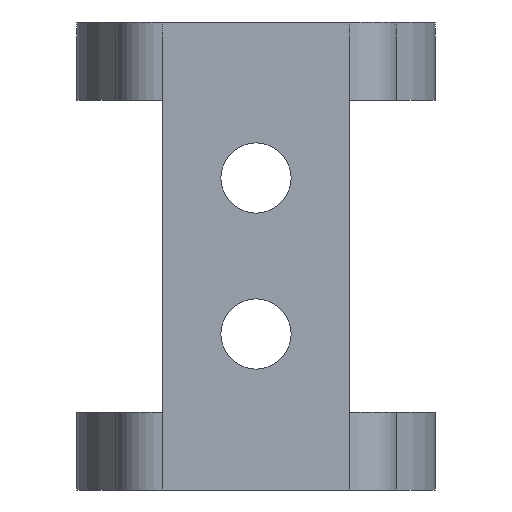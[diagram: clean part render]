
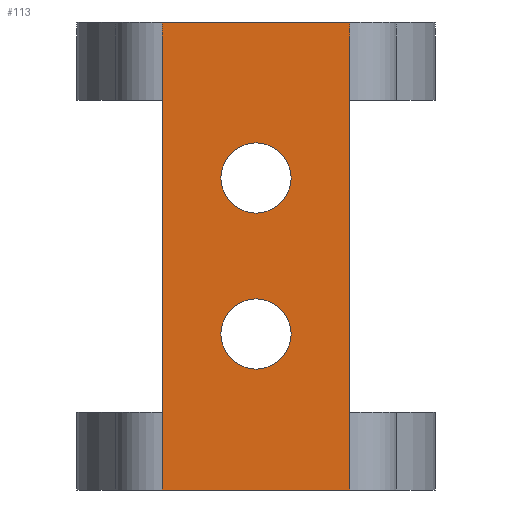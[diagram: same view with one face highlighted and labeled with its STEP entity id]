
A CAD part, front view. The second image highlights one B-rep face of the part: STEP entity #113.
In plain terms, the highlighted planar face has unit normal (0, -1, 0).
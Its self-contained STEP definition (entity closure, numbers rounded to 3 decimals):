
#113=ADVANCED_FACE('',(#204,#205,#206),#207,.F.);
#204=FACE_BOUND('',#306,.T.);
#205=FACE_BOUND('',#307,.T.);
#206=FACE_OUTER_BOUND('',#308,.T.);
#207=PLANE('',#309);
#306=EDGE_LOOP('',(#644));
#307=EDGE_LOOP('',(#645));
#308=EDGE_LOOP('',(#646,#647,#648,#649,#650,#651,#652,#653));
#309=AXIS2_PLACEMENT_3D('',#654,#655,#656);
#644=ORIENTED_EDGE('',*,*,#736,.F.);
#645=ORIENTED_EDGE('',*,*,#738,.F.);
#646=ORIENTED_EDGE('',*,*,#854,.T.);
#647=ORIENTED_EDGE('',*,*,#787,.T.);
#648=ORIENTED_EDGE('',*,*,#863,.T.);
#649=ORIENTED_EDGE('',*,*,#842,.F.);
#650=ORIENTED_EDGE('',*,*,#789,.F.);
#651=ORIENTED_EDGE('',*,*,#783,.F.);
#652=ORIENTED_EDGE('',*,*,#860,.F.);
#653=ORIENTED_EDGE('',*,*,#808,.T.);
#654=CARTESIAN_POINT('',(117.875,-28.791,-7.297));
#655=DIRECTION('',(0.0,1.0,0.0));
#656=DIRECTION('',(0.0,0.0,-1.0));
#736=EDGE_CURVE('',#868,#868,#869,.T.);
#738=EDGE_CURVE('',#872,#872,#873,.T.);
#783=EDGE_CURVE('',#957,#960,#961,.T.);
#787=EDGE_CURVE('',#917,#966,#968,.T.);
#789=EDGE_CURVE('',#960,#879,#970,.T.);
#808=EDGE_CURVE('',#1000,#943,#1003,.T.);
#842=EDGE_CURVE('',#879,#1053,#1055,.T.);
#854=EDGE_CURVE('',#943,#917,#1073,.T.);
#860=EDGE_CURVE('',#1000,#957,#1080,.T.);
#863=EDGE_CURVE('',#966,#1053,#1083,.T.);
#868=VERTEX_POINT('',#1088);
#869=CIRCLE('',#1089,2.25);
#872=VERTEX_POINT('',#1092);
#873=CIRCLE('',#1093,2.25);
#879=VERTEX_POINT('',#1100);
#917=VERTEX_POINT('',#1150);
#943=VERTEX_POINT('',#1187);
#957=VERTEX_POINT('',#1206);
#960=VERTEX_POINT('',#1209);
#961=LINE('',#1210,#1211);
#966=VERTEX_POINT('',#1217);
#968=LINE('',#1219,#1220);
#970=LINE('',#1223,#1224);
#1000=VERTEX_POINT('',#1267);
#1003=LINE('',#1271,#1272);
#1053=VERTEX_POINT('',#1349);
#1055=LINE('',#1351,#1352);
#1073=LINE('',#1381,#1382);
#1080=LINE('',#1390,#1391);
#1083=LINE('',#1396,#1397);
#1088=CARTESIAN_POINT('',(111.875,-28.791,0.453));
#1089=AXIS2_PLACEMENT_3D('',#1404,#1405,#1406);
#1092=CARTESIAN_POINT('',(111.875,-28.791,10.453));
#1093=AXIS2_PLACEMENT_3D('',#1410,#1411,#1412);
#1100=CARTESIAN_POINT('',(105.875,-28.791,17.703));
#1150=CARTESIAN_POINT('',(117.875,-28.791,17.703));
#1187=CARTESIAN_POINT('',(117.875,-28.791,-2.297));
#1206=CARTESIAN_POINT('',(105.875,-28.791,-7.297));
#1209=CARTESIAN_POINT('',(105.875,-28.791,-2.297));
#1210=CARTESIAN_POINT('',(105.875,-28.791,-7.297));
#1211=VECTOR('',#1487,1.0);
#1217=CARTESIAN_POINT('',(117.875,-28.791,22.703));
#1219=CARTESIAN_POINT('',(117.875,-28.791,17.703));
#1220=VECTOR('',#1495,1.0);
#1223=CARTESIAN_POINT('',(105.875,-28.791,-7.297));
#1224=VECTOR('',#1497,1.0);
#1267=CARTESIAN_POINT('',(117.875,-28.791,-7.297));
#1271=CARTESIAN_POINT('',(117.875,-28.791,-7.297));
#1272=VECTOR('',#1524,1.0);
#1349=CARTESIAN_POINT('',(105.875,-28.791,22.703));
#1351=CARTESIAN_POINT('',(105.875,-28.791,17.703));
#1352=VECTOR('',#1570,1.0);
#1381=CARTESIAN_POINT('',(117.875,-28.791,-7.297));
#1382=VECTOR('',#1582,1.0);
#1390=CARTESIAN_POINT('',(117.875,-28.791,-7.297));
#1391=VECTOR('',#1596,1.0);
#1396=CARTESIAN_POINT('',(117.875,-28.791,22.703));
#1397=VECTOR('',#1599,1.0);
#1404=CARTESIAN_POINT('',(111.875,-28.791,2.703));
#1405=DIRECTION('',(0.0,-1.0,0.0));
#1406=DIRECTION('',(0.0,0.0,-1.0));
#1410=CARTESIAN_POINT('',(111.875,-28.791,12.703));
#1411=DIRECTION('',(0.0,-1.0,0.0));
#1412=DIRECTION('',(0.0,0.0,-1.0));
#1487=DIRECTION('',(0.0,0.0,1.0));
#1495=DIRECTION('',(0.0,0.0,1.0));
#1497=DIRECTION('',(0.0,0.0,1.0));
#1524=DIRECTION('',(0.0,0.0,1.0));
#1570=DIRECTION('',(0.0,0.0,1.0));
#1582=DIRECTION('',(0.0,0.0,1.0));
#1596=DIRECTION('',(-1.0,0.0,0.0));
#1599=DIRECTION('',(-1.0,0.0,0.0));
